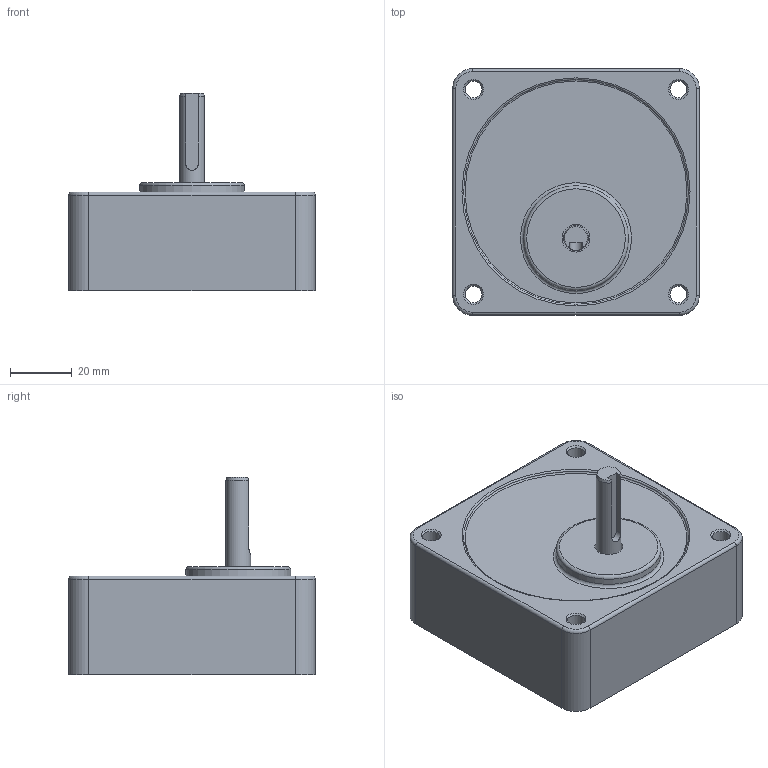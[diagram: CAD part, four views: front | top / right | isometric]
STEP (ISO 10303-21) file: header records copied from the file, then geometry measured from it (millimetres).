
FILE_DESCRIPTION((''),'2;1');
FILE_NAME('D:\미주향3D\GEAR HEAD\GEARHEAD\ㅁ80 25W\S8KA3~18.stp','2013-12-13T13:13:59',('leebh'),(''),'Autodesk Inventor 2011','Autodesk Inventor 2011','');
FILE_SCHEMA(('AUTOMOTIVE_DESIGN { 1 0 10303 214 1 1 1 1 }'));
Length unit declared in the file: millimetre
Products named in the file (1): 부품6
Bounding box: 80 x 80 x 64 mm (x, y, z)
Volume: 179512 mm3; surface area: 27472.2 mm2
Topology: 1 solids, 1 shells, 46 faces, 100 edges, 62 vertices
Faces by surface type: cylinder 18, plane 15, torus 8, cone 5
Full cylindrical faces by diameter (mm): 5.5 x4, 8 x2, 9 x1, 34 x1, 73 x1
Entity records: 1221 total; most frequent: DIRECTION 221, CARTESIAN_POINT 212, ORIENTED_EDGE 164, AXIS2_PLACEMENT_3D 96, EDGE_CURVE 82, EDGE_LOOP 77, VERTEX_POINT 61, CIRCLE 49
